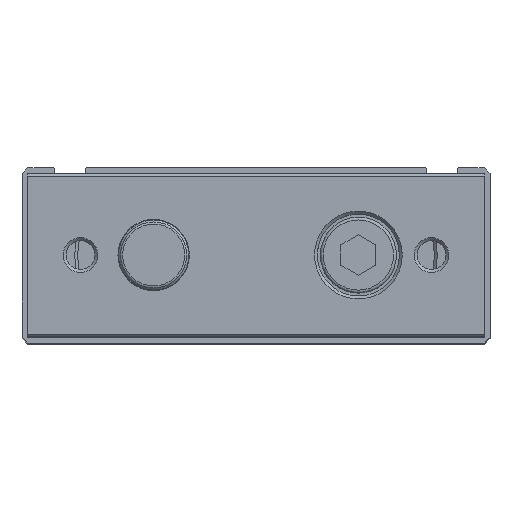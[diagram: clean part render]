
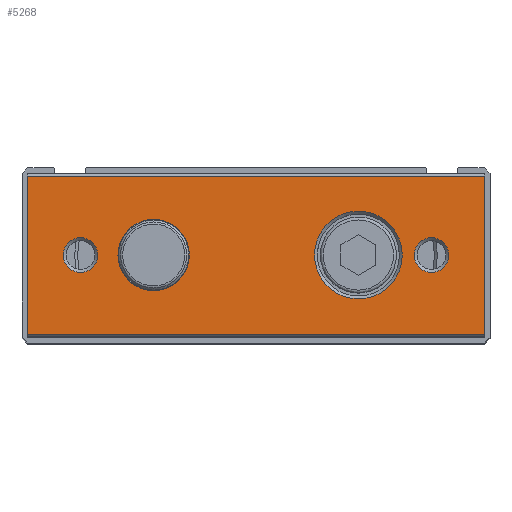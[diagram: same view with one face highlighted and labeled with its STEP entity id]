
A CAD part, top view. The second image highlights one B-rep face of the part: STEP entity #5268.
In plain terms, the highlighted planar face has unit normal (0, 0, 1).
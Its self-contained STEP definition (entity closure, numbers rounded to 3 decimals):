
#3994=CARTESIAN_POINT('',(-39.0,-13.5,166.0));
#3995=VERTEX_POINT('',#3994);
#4002=CARTESIAN_POINT('',(-39.0,13.5,166.0));
#4003=VERTEX_POINT('',#4002);
#4004=CARTESIAN_POINT('',(-39.0,13.5,166.0));
#4005=DIRECTION('',(0.0,-1.0,0.0));
#4006=VECTOR('',#4005,27.);
#4007=LINE('',#4004,#4006);
#4008=EDGE_CURVE('',#4003,#3995,#4007,.T.);
#4122=CARTESIAN_POINT('',(39.0,-13.5,166.0));
#4123=VERTEX_POINT('',#4122);
#4130=CARTESIAN_POINT('',(39.0,-13.5,166.0));
#4131=DIRECTION('',(-1.0,0.0,0.0));
#4132=VECTOR('',#4131,78.0);
#4133=LINE('',#4130,#4132);
#4134=EDGE_CURVE('',#4123,#3995,#4133,.T.);
#4201=CARTESIAN_POINT('',(39.0,13.5,166.0));
#4202=VERTEX_POINT('',#4201);
#4209=CARTESIAN_POINT('',(39.0,-13.5,166.0));
#4210=DIRECTION('',(0.0,1.0,0.0));
#4211=VECTOR('',#4210,27.);
#4212=LINE('',#4209,#4211);
#4213=EDGE_CURVE('',#4123,#4202,#4212,.T.);
#5204=CARTESIAN_POINT('',(-27.042,0.,166.0));
#5205=VERTEX_POINT('',#5204);
#5206=CARTESIAN_POINT('',(-30.0,0.,166.0));
#5207=DIRECTION('',(0.0,0.0,1.0));
#5208=DIRECTION('',(-1.0,0.0,0.0));
#5209=AXIS2_PLACEMENT_3D('',#5206,#5207,#5208);
#5210=CIRCLE('',#5209,2.958);
#5211=EDGE_CURVE('',#5205,#5205,#5210,.T.);
#5216=CARTESIAN_POINT('',(0.0,-14.,166.0));
#5217=DIRECTION('',(0.0,0.0,1.0));
#5218=DIRECTION('',(1.0,0.0,0.0));
#5219=AXIS2_PLACEMENT_3D('',#5216,#5217,#5218);
#5220=PLANE('',#5219);
#5221=ORIENTED_EDGE('',*,*,#4134,.F.);
#5222=ORIENTED_EDGE('',*,*,#4213,.T.);
#5223=CARTESIAN_POINT('',(-39.0,13.5,166.0));
#5224=DIRECTION('',(1.0,0.0,0.0));
#5225=VECTOR('',#5224,78.0);
#5226=LINE('',#5223,#5225);
#5227=EDGE_CURVE('',#4003,#4202,#5226,.T.);
#5228=ORIENTED_EDGE('',*,*,#5227,.F.);
#5229=ORIENTED_EDGE('',*,*,#4008,.T.);
#5230=EDGE_LOOP('',(#5221,#5222,#5228,#5229));
#5231=FACE_OUTER_BOUND('',#5230,.T.);
#5232=CARTESIAN_POINT('',(32.959,0.,166.0));
#5233=VERTEX_POINT('',#5232);
#5234=CARTESIAN_POINT('',(30.0,0.,166.0));
#5235=DIRECTION('',(0.0,0.0,1.0));
#5236=DIRECTION('',(-1.0,0.0,0.0));
#5237=AXIS2_PLACEMENT_3D('',#5234,#5235,#5236);
#5238=CIRCLE('',#5237,2.958);
#5239=EDGE_CURVE('',#5233,#5233,#5238,.T.);
#5240=ORIENTED_EDGE('',*,*,#5239,.F.);
#5241=EDGE_LOOP('',(#5240));
#5242=FACE_BOUND('',#5241,.T.);
#5243=CARTESIAN_POINT('',(-11.4,0.,166.0));
#5244=VERTEX_POINT('',#5243);
#5245=CARTESIAN_POINT('',(-17.5,0.,166.0));
#5246=DIRECTION('',(0.0,0.0,-1.0));
#5247=DIRECTION('',(-1.0,0.0,0.0));
#5248=AXIS2_PLACEMENT_3D('',#5245,#5246,#5247);
#5249=CIRCLE('',#5248,6.1);
#5250=EDGE_CURVE('',#5244,#5244,#5249,.T.);
#5251=ORIENTED_EDGE('',*,*,#5250,.T.);
#5252=EDGE_LOOP('',(#5251));
#5253=FACE_BOUND('',#5252,.T.);
#5254=CARTESIAN_POINT('',(25.0,0.,166.0));
#5255=VERTEX_POINT('',#5254);
#5256=CARTESIAN_POINT('',(17.5,0.,166.0));
#5257=DIRECTION('',(0.0,0.0,1.0));
#5258=DIRECTION('',(-1.0,0.0,0.0));
#5259=AXIS2_PLACEMENT_3D('',#5256,#5257,#5258);
#5260=CIRCLE('',#5259,7.5);
#5261=EDGE_CURVE('',#5255,#5255,#5260,.T.);
#5262=ORIENTED_EDGE('',*,*,#5261,.F.);
#5263=EDGE_LOOP('',(#5262));
#5264=FACE_BOUND('',#5263,.T.);
#5265=ORIENTED_EDGE('',*,*,#5211,.F.);
#5266=EDGE_LOOP('',(#5265));
#5267=FACE_BOUND('',#5266,.T.);
#5268=ADVANCED_FACE('',(#5231,#5242,#5253,#5264,#5267),#5220,.T.);
